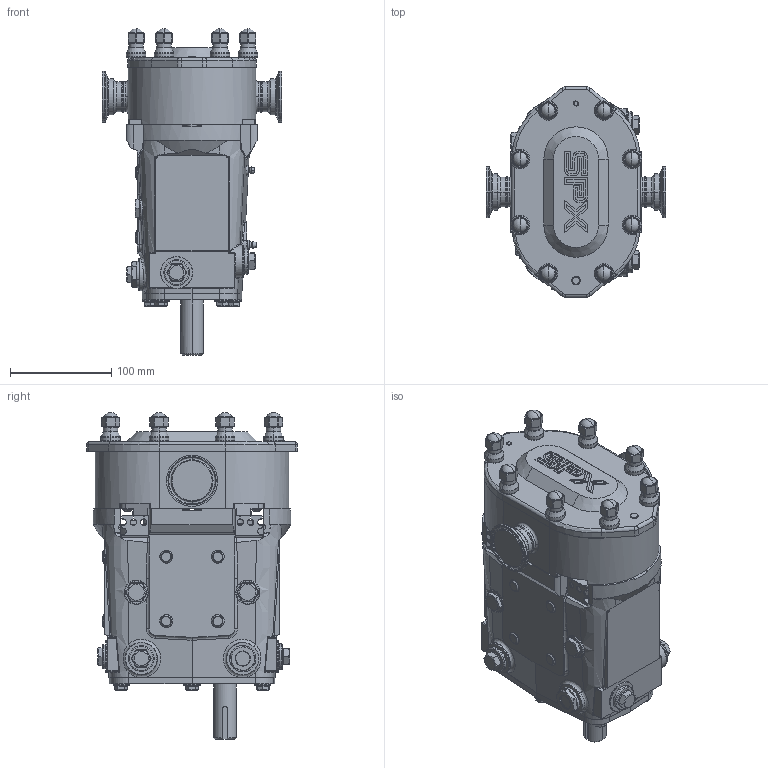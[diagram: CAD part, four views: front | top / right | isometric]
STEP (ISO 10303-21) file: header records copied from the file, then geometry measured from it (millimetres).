
FILE_DESCRIPTION (( 'STEP AP214' ), '1' );
FILE_NAME ('Model 015 Universal Series Side Mount RH 1.STEP', '2017-11-17T21:53:31', ( '' ), ( '' ), 'SwSTEP 2.0', 'SolidWorks 2014', '' );
FILE_SCHEMA (( 'AUTOMOTIVE_DESIGN' ));
Length unit declared in the file: inch
Products named in the file (1): Model 015 Universal Series Side Mount RH 1
Bounding box: 177.02 x 207.77 x 322.31 mm (x, y, z)
Volume: 4336394.3 mm3; surface area: 294935.8 mm2
Topology: 3 solids, 3 shells, 2039 faces, 5223 edges, 3298 vertices
Faces by surface type: plane 803, cylinder 614, torus 279, cone 238, bspline 87, sphere 18
Entity records: 67598 total; most frequent: CARTESIAN_POINT 18243, DIRECTION 10444, ORIENTED_EDGE 10430, EDGE_CURVE 5215, AXIS2_PLACEMENT_3D 4033, VERTEX_POINT 3298, VECTOR 2378, LINE 2378
